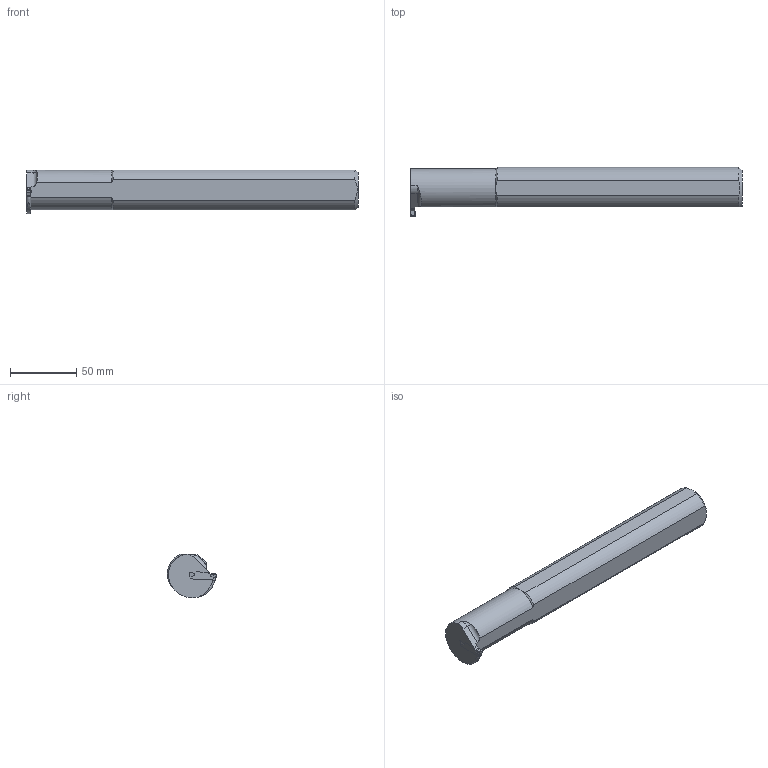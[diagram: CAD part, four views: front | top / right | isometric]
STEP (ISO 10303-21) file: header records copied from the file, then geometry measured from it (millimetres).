
FILE_DESCRIPTION(/* description */ (''),/* implementation_level */ '2;1');
FILE_NAME(/* name */ 'MGIVR3732-4-HAAS.stp',/* time_stamp */ '2021-10-18T09:12:55+09:00',/* author */ (''),/* organization */ (''),/* preprocessor_version */ 'ST-DEVELOPER v16',/* originating_system */ 'SIEMENS PLM Software NX 10.0',/* authorisation */ '');
FILE_SCHEMA (('AUTOMOTIVE_DESIGN { 1 0 10303 214 3 1 1 1 }'));
Length unit declared in the file: millimetre
Products named in the file (1): model2
Bounding box: 251.45 x 37.5 x 32.96 mm (x, y, z)
Volume: 188720.5 mm3; surface area: 26689.2 mm2
Topology: 2 solids, 2 shells, 70 faces, 198 edges, 130 vertices
Faces by surface type: plane 44, cylinder 18, cone 6, torus 2
Full cylindrical faces by diameter (mm): 2.5 x1
Entity records: 2337 total; most frequent: CARTESIAN_POINT 502, ORIENTED_EDGE 382, DIRECTION 367, EDGE_CURVE 191, VERTEX_POINT 128, AXIS2_PLACEMENT_3D 123, LINE 121, VECTOR 121
